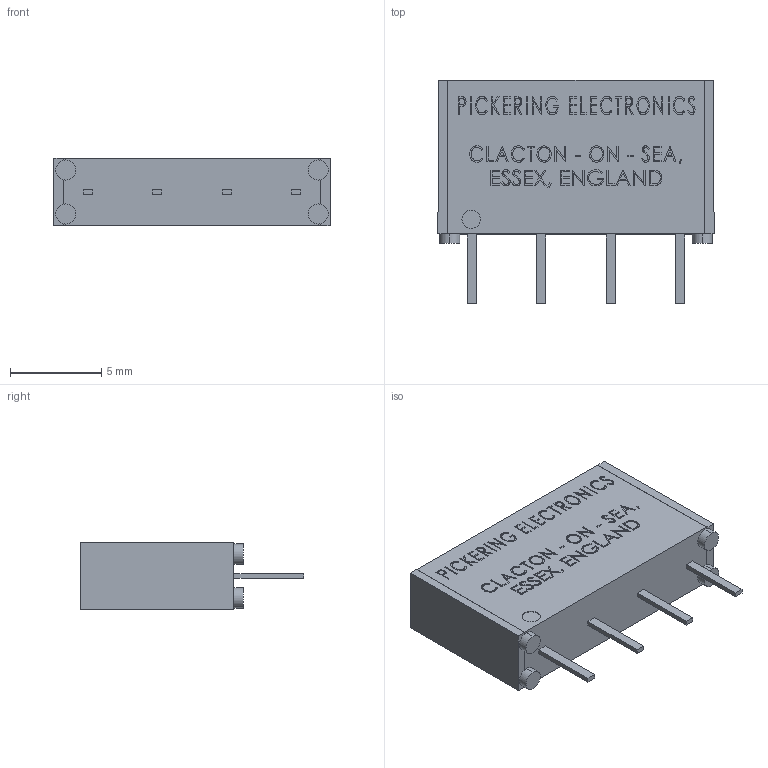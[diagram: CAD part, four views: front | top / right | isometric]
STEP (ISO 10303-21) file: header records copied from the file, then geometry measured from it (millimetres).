
FILE_DESCRIPTION (( 'STEP AP203' ), '1' );
FILE_NAME ('109-1-B-x-xx.STEP', '2010-06-29T10:53:46', ( ' ' ), ( '' ), 'SwSTEP 2.0', 'SolidWorks 2009', '' );
FILE_SCHEMA (( 'CONFIG_CONTROL_DESIGN' ));
Length unit declared in the file: millimetre
Products named in the file (1): 109-1-B-x-xx
Bounding box: 15.1 x 12.2 x 3.7 mm (x, y, z)
Volume: 466.3 mm3; surface area: 599.8 mm2
Topology: 7 solids, 7 shells, 1013 faces, 2664 edges, 1776 vertices
Faces by surface type: plane 711, bspline 292, cylinder 10
Entity records: 46859 total; most frequent: CARTESIAN_POINT 23714, ORIENTED_EDGE 5328, DIRECTION 3544, EDGE_CURVE 2664, VECTOR 2060, LINE 2060, VERTEX_POINT 1776, EDGE_LOOP 1124
